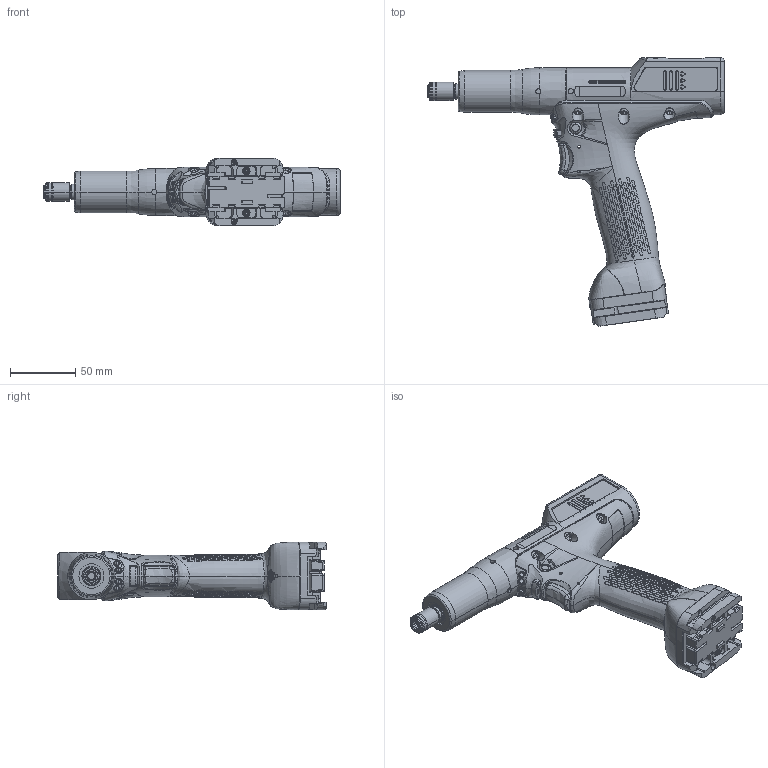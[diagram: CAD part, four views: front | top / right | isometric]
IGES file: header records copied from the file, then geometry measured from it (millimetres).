
Start section:  PTC IGES file: 6151659060_without_battery.igs
Global section: file name: 6151659060_without_battery.igs; native system: Creo Parametric by Parametric Technology Corporation; preprocessor: 2014200; author: greextsd; organization: Unknown; date: 20141017.144439; units: millimetre
Bounding box: 227.15 x 205.54 x 52 mm (x, y, z)
Volume: 360812.8 mm3; surface area: 106896.5 mm2
Topology: 7 solids, 7 shells, 3106 faces, 8232 edges, 5269 vertices
Faces by surface type: bspline 1671, revolution 1415, extrusion 20
